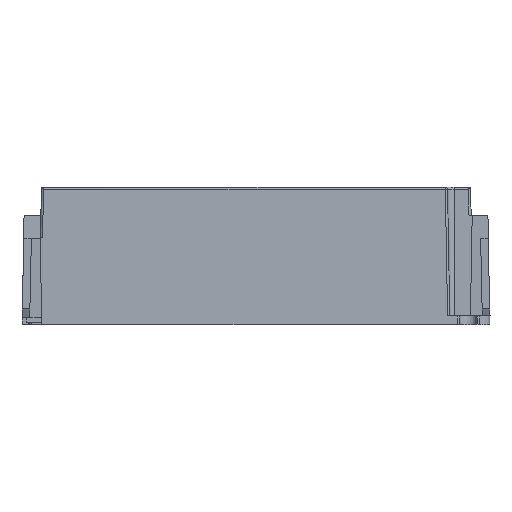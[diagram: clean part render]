
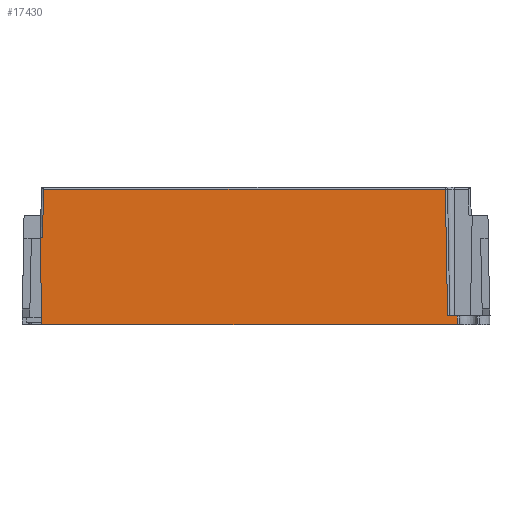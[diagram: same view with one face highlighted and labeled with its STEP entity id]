
A CAD part, front view. The second image highlights one B-rep face of the part: STEP entity #17430.
In plain terms, the highlighted planar face has unit normal (0, -1, 0.018).
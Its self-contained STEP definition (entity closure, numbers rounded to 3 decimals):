
#1575=FACE_OUTER_BOUND('',#2610,.T.);
#2610=EDGE_LOOP('',(#13975,#13976,#13977,#13978,#13979,#13980,#13981,#13982));
#4247=LINE('',#27729,#6118);
#4353=LINE('',#28158,#6224);
#4355=LINE('',#28162,#6226);
#4356=LINE('',#28164,#6227);
#4357=LINE('',#28166,#6228);
#4358=LINE('',#28168,#6229);
#4359=LINE('',#28170,#6230);
#4360=LINE('',#28171,#6231);
#6118=VECTOR('',#22237,10.);
#6224=VECTOR('',#22437,10.);
#6226=VECTOR('',#22441,10.);
#6227=VECTOR('',#22442,10.);
#6228=VECTOR('',#22443,10.);
#6229=VECTOR('',#22444,10.);
#6230=VECTOR('',#22445,10.);
#6231=VECTOR('',#22446,10.);
#7831=VERTEX_POINT('',#27726);
#7832=VERTEX_POINT('',#27728);
#7928=VERTEX_POINT('',#28156);
#7929=VERTEX_POINT('',#28161);
#7930=VERTEX_POINT('',#28163);
#7931=VERTEX_POINT('',#28165);
#7932=VERTEX_POINT('',#28167);
#7933=VERTEX_POINT('',#28169);
#9928=EDGE_CURVE('',#7831,#7832,#4247,.T.);
#10061=EDGE_CURVE('',#7928,#7831,#4353,.T.);
#10063=EDGE_CURVE('',#7929,#7928,#4355,.T.);
#10064=EDGE_CURVE('',#7930,#7929,#4356,.T.);
#10065=EDGE_CURVE('',#7931,#7930,#4357,.T.);
#10066=EDGE_CURVE('',#7932,#7931,#4358,.T.);
#10067=EDGE_CURVE('',#7933,#7932,#4359,.T.);
#10068=EDGE_CURVE('',#7832,#7933,#4360,.T.);
#13975=ORIENTED_EDGE('',*,*,#10061,.F.);
#13976=ORIENTED_EDGE('',*,*,#10063,.F.);
#13977=ORIENTED_EDGE('',*,*,#10064,.F.);
#13978=ORIENTED_EDGE('',*,*,#10065,.F.);
#13979=ORIENTED_EDGE('',*,*,#10066,.F.);
#13980=ORIENTED_EDGE('',*,*,#10067,.F.);
#13981=ORIENTED_EDGE('',*,*,#10068,.F.);
#13982=ORIENTED_EDGE('',*,*,#9928,.F.);
#15952=PLANE('',#18688);
#17430=ADVANCED_FACE('',(#1575),#15952,.T.);
#18688=AXIS2_PLACEMENT_3D('',#28160,#22439,#22440);
#22237=DIRECTION('',(-1.,0.,0.));
#22437=DIRECTION('',(0.017,-0.017,-1.));
#22439=DIRECTION('center_axis',(0.,-1.,
0.017));
#22440=DIRECTION('ref_axis',(0.,-0.017,-1.));
#22441=DIRECTION('',(1.,0.,0.));
#22442=DIRECTION('',(0.017,-0.017,-1.));
#22443=DIRECTION('',(1.,0.,0.));
#22444=DIRECTION('',(0.027,0.017,0.999));
#22445=DIRECTION('',(1.,0.,0.));
#22446=DIRECTION('',(-0.017,0.017,1.));
#27726=CARTESIAN_POINT('',(46.575,-37.1,0.));
#27728=CARTESIAN_POINT('',(-49.572,-37.1,0.));
#27729=CARTESIAN_POINT('',(44.85,-37.1,0.));
#28156=CARTESIAN_POINT('',(46.54,-37.065,2.));
#28158=CARTESIAN_POINT('',(46.574,-37.099,0.058));
#28160=CARTESIAN_POINT('Origin',(44.85,-37.1,0.));
#28161=CARTESIAN_POINT('',(44.315,-37.065,2.));
#28162=CARTESIAN_POINT('',(47.084,-37.065,2.));
#28163=CARTESIAN_POINT('',(43.804,-36.554,31.259));
#28164=CARTESIAN_POINT('',(44.349,-37.099,0.063));
#28165=CARTESIAN_POINT('',(-49.113,-36.554,31.259));
#28166=CARTESIAN_POINT('',(22.425,-36.554,31.259));
#28167=CARTESIAN_POINT('',(-49.419,-36.749,20.092));
#28168=CARTESIAN_POINT('',(-49.932,-37.077,1.293));
#28169=CARTESIAN_POINT('',(-49.923,-36.749,20.092));
#28170=CARTESIAN_POINT('',(-2.375,-36.749,20.092));
#28171=CARTESIAN_POINT('',(-49.558,-37.114,-0.823));
